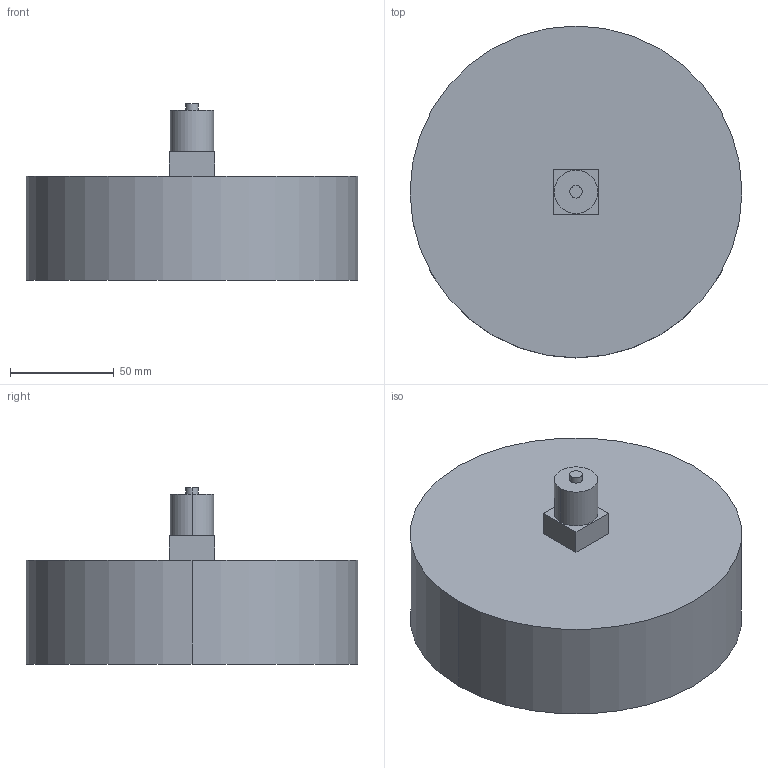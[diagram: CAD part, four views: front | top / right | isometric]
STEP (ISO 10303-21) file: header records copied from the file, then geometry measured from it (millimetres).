
FILE_DESCRIPTION (( 'STEP AP214' ), '1' );
FILE_NAME ('Manometr_puszkowy_x_0_3D_AFRISO.STEP', '2022-12-14T11:48:49', ( '' ), ( '' ), 'SwSTEP 2.0', 'SolidWorks 2022', '' );
FILE_SCHEMA (( 'AUTOMOTIVE_DESIGN' ));
Length unit declared in the file: millimetre
Products named in the file (1): Manometr_puszkowy_x_0_3D_AFRISO
Bounding box: 160 x 160 x 85 mm (x, y, z)
Volume: 1018129.7 mm3; surface area: 67777.1 mm2
Topology: 1 solids, 1 shells, 15 faces, 30 edges, 20 vertices
Faces by surface type: plane 9, cylinder 6
Entity records: 430 total; most frequent: DIRECTION 74, CARTESIAN_POINT 66, ORIENTED_EDGE 60, EDGE_CURVE 30, AXIS2_PLACEMENT_3D 28, VERTEX_POINT 20, EDGE_LOOP 18, LINE 18
